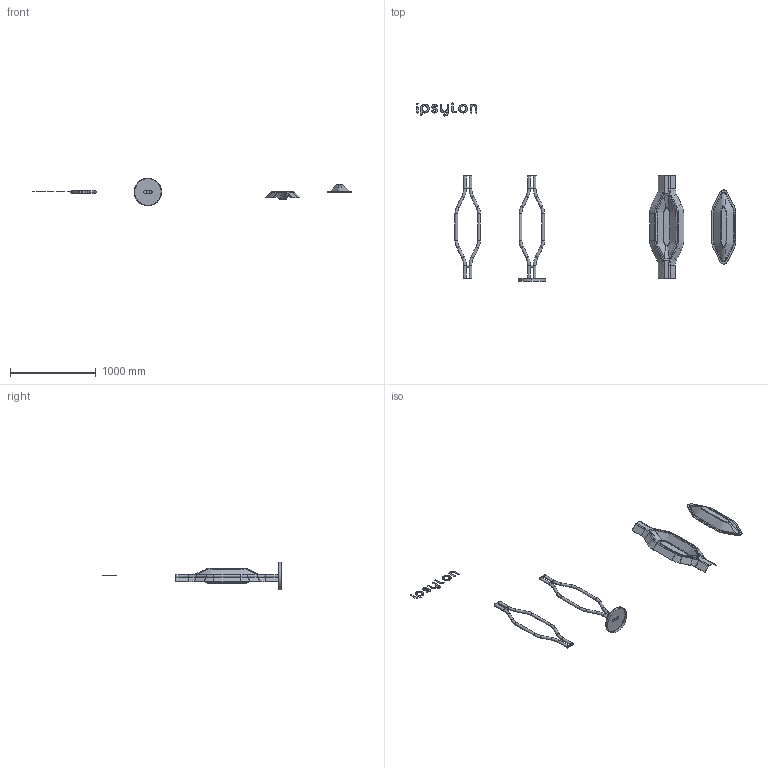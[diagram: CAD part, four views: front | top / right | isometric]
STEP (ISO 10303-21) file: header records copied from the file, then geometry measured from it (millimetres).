
FILE_DESCRIPTION(/* description */ (''),/* implementation_level */ '2;1');
FILE_NAME(/* name */ 'ipsylon',/* time_stamp */ '2025-12-18T14:49:11+01:00',/* author */ (''),/* organization */ (''),/* preprocessor_version */ 'ST-DEVELOPER v19.2',/* originating_system */ 'Rhino 8.25',/* authorisation */ '');
FILE_SCHEMA (('CONFIG_CONTROL_DESIGN'));
Length unit declared in the file: millimetre
Products named in the file (1): Document
Bounding box: 3726.27 x 2077.71 x 320 mm (x, y, z)
Volume: 5256301.5 mm3; surface area: 2174251.9 mm2
Topology: 14 solids, 23 shells, 305 faces, 948 edges, 877 vertices
Faces by surface type: bspline 173, plane 92, cylinder 40
Full cylindrical faces by diameter (mm): 20 x4, 32 x20
Entity records: 34332 total; most frequent: CARTESIAN_POINT 29273, ORIENTED_EDGE 1344, EDGE_CURVE 724, B_SPLINE_CURVE_WITH_KNOTS 633, VERTEX_POINT 441, EDGE_LOOP 309, ADVANCED_FACE 305, FACE_OUTER_BOUND 305
